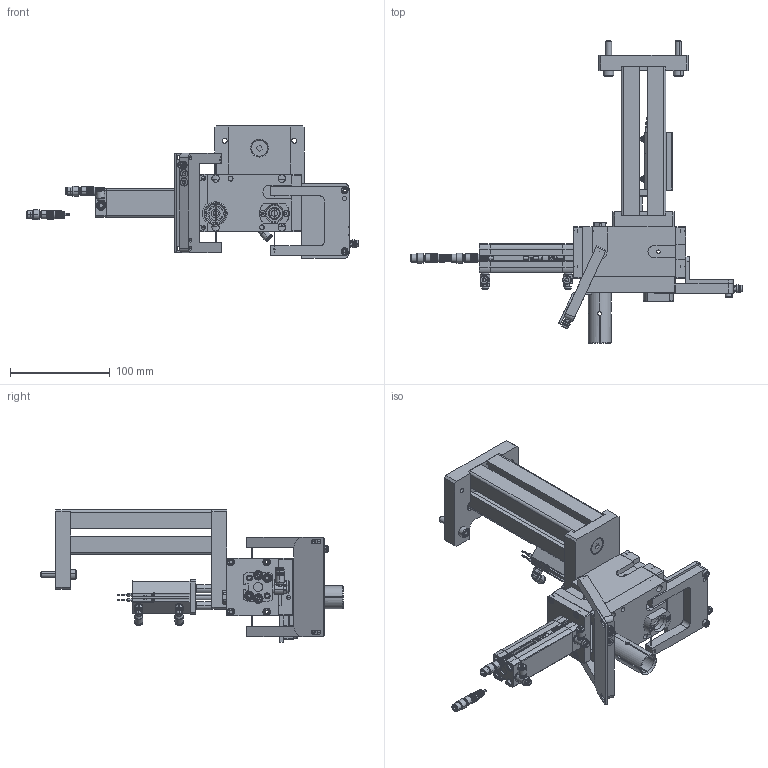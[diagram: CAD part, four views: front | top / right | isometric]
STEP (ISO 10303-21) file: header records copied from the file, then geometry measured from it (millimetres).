
FILE_DESCRIPTION (( 'STEP AP214' ), '1' );
FILE_NAME ('SPP.STEP', '2025-06-19T11:41:12', ( '' ), ( '' ), 'SwSTEP 2.0', 'SolidWorks 2022', '' );
FILE_SCHEMA (( 'AUTOMOTIVE_DESIGN' ));
Length unit declared in the file: millimetre
Products named in the file (1): SPP
Bounding box: 333.5 x 304 x 133 mm (x, y, z)
Surface area: 219669.7 mm2 (no closed solid volume)
Topology: 0 solids, 122 shells, 1580 faces, 5364 edges, 3813 vertices
Faces by surface type: plane 633, cylinder 556, cone 203, torus 134, bspline 40, sphere 14
Entity records: 78981 total; most frequent: CARTESIAN_POINT 15814, DIRECTION 9752, ORIENTED_EDGE 8487, EDGE_CURVE 5336, VERTEX_POINT 3811, AXIS2_PLACEMENT_3D 3655, LINE 2442, VECTOR 2442
